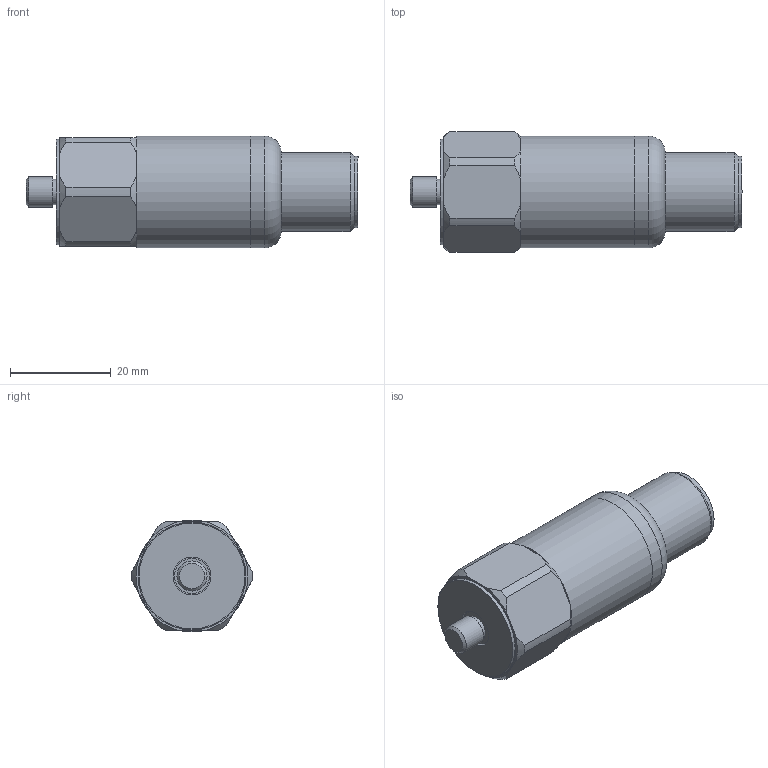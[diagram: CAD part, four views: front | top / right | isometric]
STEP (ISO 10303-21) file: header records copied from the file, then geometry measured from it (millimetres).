
FILE_DESCRIPTION(/* description */ (''),/* implementation_level */ '2;1');
FILE_NAME(/* name */ 'Z:\Engineering\Drawings\3D Library\Assemblies\Website\Premium Top\HS-150 Top 2 Pin MS\HS-150XXX5006.stp',/* time_stamp */ '2023-03-12T11:03:07+00:00',/* author */ ('Ricardo.Peneda'),/* organization */ (''),/* preprocessor_version */ 'ST-DEVELOPER v18.1',/* originating_system */ 'Autodesk Inventor 2021',/* authorisation */ '');
FILE_SCHEMA (('AUTOMOTIVE_DESIGN { 1 0 10303 214 3 1 1 }'));
Length unit declared in the file: inch
Products named in the file (1): HS-150XXX5006_Shrinkwrap_1
Bounding box: 65.97 x 23.99 x 22.2 mm (x, y, z)
Volume: 14326 mm3; surface area: 7616.9 mm2
Topology: 3 solids, 3 shells, 64 faces, 167 edges, 120 vertices
Faces by surface type: plane 29, cylinder 22, cone 12, torus 1
Full cylindrical faces by diameter (mm): 5 x2, 5.359 x1, 6 x1, 6.35 x1, 7 x1, 7.5 x1, 11.37 x1, 14.28 x1, 15.055 x1, 15.7 x1, 19 x1, 20 x1, 21 x1, 22.2 x2
Entity records: 2131 total; most frequent: CARTESIAN_POINT 399, DIRECTION 368, ORIENTED_EDGE 332, EDGE_CURVE 166, AXIS2_PLACEMENT_3D 161, VERTEX_POINT 120, CIRCLE 96, EDGE_LOOP 76
